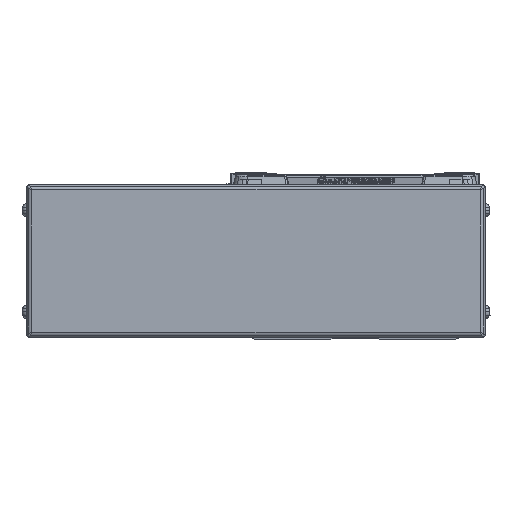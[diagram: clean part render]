
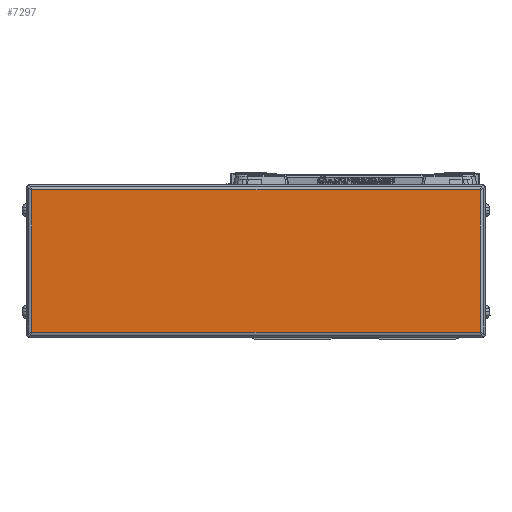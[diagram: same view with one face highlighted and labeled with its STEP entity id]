
A CAD part, left-side view. The second image highlights one B-rep face of the part: STEP entity #7297.
In plain terms, the highlighted planar face has unit normal (-1, 0, 0).
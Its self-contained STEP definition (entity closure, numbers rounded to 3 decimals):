
#7297=ADVANCED_FACE('',(#14968),#14969,.F.);
#14968=FACE_OUTER_BOUND('',#23712,.T.);
#14969=PLANE('',#23713);
#23712=EDGE_LOOP('',(#44708,#44709,#44710,#44711));
#23713=AXIS2_PLACEMENT_3D('',#44712,#44713,#44714);
#44708=ORIENTED_EDGE('',*,*,#54596,.T.);
#44709=ORIENTED_EDGE('',*,*,#55715,.T.);
#44710=ORIENTED_EDGE('',*,*,#55411,.T.);
#44711=ORIENTED_EDGE('',*,*,#55776,.T.);
#44712=CARTESIAN_POINT('',(-616.,39.,0.));
#44713=DIRECTION('',(1.0,0.,0.));
#44714=DIRECTION('',(0.,0.,1.0));
#54596=EDGE_CURVE('',#67517,#67515,#67518,.T.);
#55411=EDGE_CURVE('',#68295,#60878,#68503,.T.);
#55715=EDGE_CURVE('',#67515,#68295,#68840,.T.);
#55776=EDGE_CURVE('',#60878,#67517,#68907,.T.);
#60878=VERTEX_POINT('',#75462);
#67515=VERTEX_POINT('',#84772);
#67517=VERTEX_POINT('',#84774);
#67518=LINE('',#84775,#84776);
#68295=VERTEX_POINT('',#85861);
#68503=LINE('',#86163,#86164);
#68840=LINE('',#86690,#86691);
#68907=LINE('',#86776,#86777);
#75462=CARTESIAN_POINT('',(-616.,-49.2,-28.));
#84772=CARTESIAN_POINT('',(-616.,127.2,28.));
#84774=CARTESIAN_POINT('',(-616.,-49.2,28.));
#84775=CARTESIAN_POINT('',(-616.,39.,28.));
#84776=VECTOR('',#97346,10.0);
#85861=CARTESIAN_POINT('',(-616.0,127.2,-28.));
#86163=CARTESIAN_POINT('',(-616.,39.,-28.));
#86164=VECTOR('',#98281,10.0);
#86690=CARTESIAN_POINT('',(-616.0,127.2,0.));
#86691=VECTOR('',#98557,10.0);
#86776=CARTESIAN_POINT('',(-616.,-49.2,0.));
#86777=VECTOR('',#98609,10.0);
#97346=DIRECTION('',(0.,1.0,0.));
#98281=DIRECTION('',(0.,-1.0,0.));
#98557=DIRECTION('',(0.,0.,-1.0));
#98609=DIRECTION('',(0.,0.,1.0));
